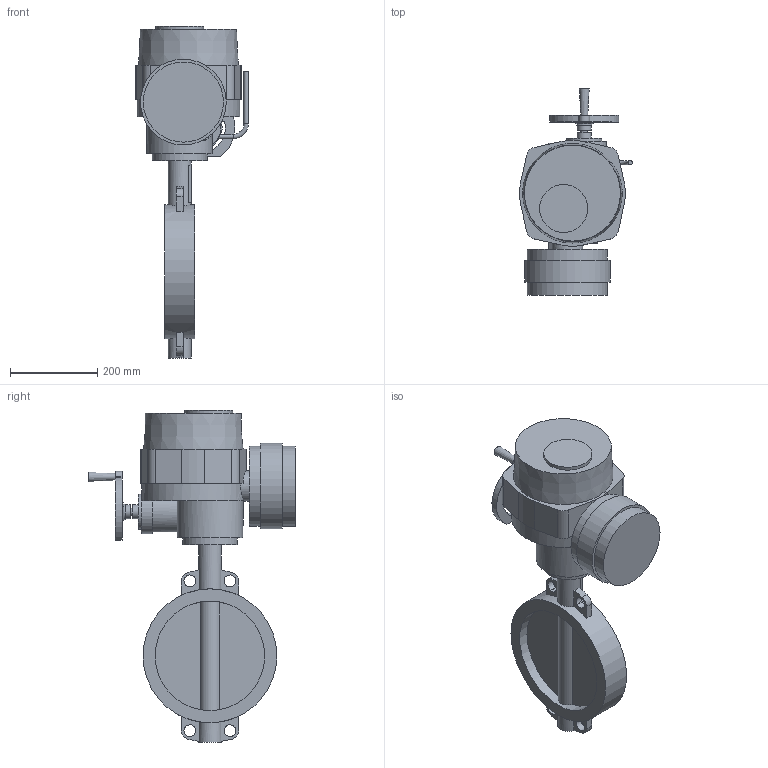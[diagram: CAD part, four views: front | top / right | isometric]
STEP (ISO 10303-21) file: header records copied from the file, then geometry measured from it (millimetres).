
FILE_DESCRIPTION(('STEP AP203'), '1');
FILE_NAME('青蜮铕 017W.ZS DN250+菹 QT.A050', '', ('UNSPECIFIED'), ('UNSPECIFIED'), 'ASCON STEP Converter 1.6', 'ASCON Math Kernel', '');
FILE_SCHEMA(('CONFIG_CONTROL_DESIGN'));
Length unit declared in the file: millimetre
Bounding box: 257.68 x 472 x 759 mm (x, y, z)
Volume: 14315401.2 mm3; surface area: 821925.8 mm2
Topology: 1 solids, 2 shells, 882 faces, 2559 edges, 1650 vertices
Faces by surface type: cylinder 649, plane 229, cone 3, torus 1
Full cylindrical faces by diameter (mm): 6.7 x8, 10 x2, 12 x4, 16 x1, 28.6 x1, 32 x2, 35 x2, 52 x2, 70 x2, 80 x1, 100 x1, 110 x1, 125 x1, 150 x1, 183 x2, 196 x1, 250.4 x2, 306 x1
Entity records: 37959 total; most frequent: CARTESIAN_POINT 6445, DIRECTION 5636, ORIENTED_EDGE 4964, EDGE_CURVE 2521, AXIS2_PLACEMENT_3D 2262, VERTEX_POINT 1650, CIRCLE 1379, LINE 1112
